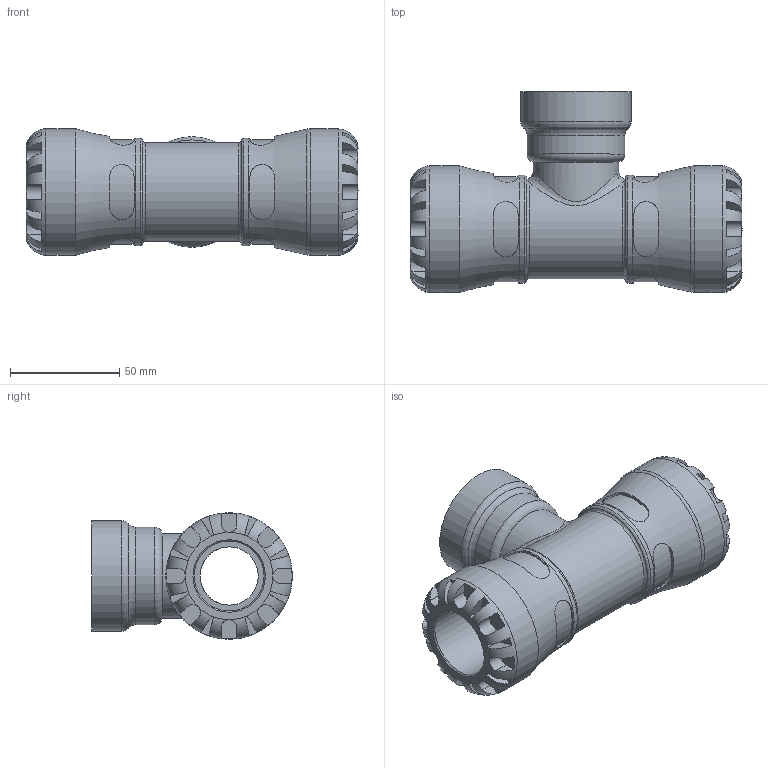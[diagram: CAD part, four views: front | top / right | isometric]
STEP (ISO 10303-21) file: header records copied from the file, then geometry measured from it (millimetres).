
FILE_DESCRIPTION(/* description */ ('PLASSON TEE WITH THREADED FEMALE OFFTAKE 32X1.1/4" SERIES 1'),/* implementation_level */ '2;1');
FILE_NAME(/* name */ 'C:\Dropbox\KIMPROJECTS-Inventor\99-16-3568-Processing\1014\101400032013_191400032013.ipt.stp',/* time_stamp */ '2017-01-30T09:06:27+02:00',/* author */ ('KIM'),/* organization */ (''),/* preprocessor_version */ 'ST-DEVELOPER v15.6',/* originating_system */ 'Autodesk Inventor 2015',/* authorisation */ '');
FILE_SCHEMA (('AUTOMOTIVE_DESIGN { 1 0 10303 214 3 1 1 }'));
Length unit declared in the file: millimetre
Products named in the file (1): 101400032013_191400032013
Bounding box: 152 x 92 x 58 mm (x, y, z)
Volume: 213561.7 mm3; surface area: 57699 mm2
Topology: 1 solids, 1 shells, 204 faces, 520 edges, 326 vertices
Faces by surface type: plane 120, cylinder 69, torus 12, cone 2, bspline 1
Full cylindrical faces by diameter (mm): 26.667 x1, 32 x2, 33.109 x1, 38.952 x2, 44.795 x1, 49.3 x2, 50.638 x1, 58 x2
Entity records: 7992 total; most frequent: CARTESIAN_POINT 3185, ORIENTED_EDGE 950, DIRECTION 924, EDGE_CURVE 475, AXIS2_PLACEMENT_3D 381, VERTEX_POINT 310, EDGE_LOOP 245, STYLED_ITEM 205
